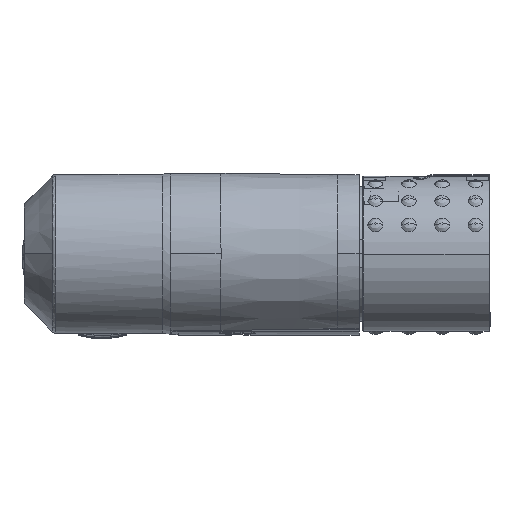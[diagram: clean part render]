
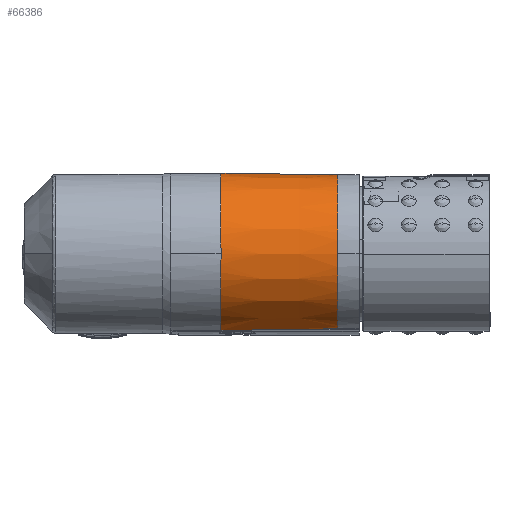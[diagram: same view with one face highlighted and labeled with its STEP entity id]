
A CAD part, top view. The second image highlights one B-rep face of the part: STEP entity #66386.
In plain terms, the highlighted conical face has half-angle 0.728 degrees and reference radius 10.66 mm.
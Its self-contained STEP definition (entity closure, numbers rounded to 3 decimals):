
#410 = CARTESIAN_POINT ( 'NONE',  ( 76.895, 4.527, 3.325 ) ) ;
#2387 = CARTESIAN_POINT ( 'NONE',  ( 76.895, -5.601, 10.66 ) ) ;
#3211 = VERTEX_POINT ( 'NONE', #36006 ) ;
#3272 = CARTESIAN_POINT ( 'NONE',  ( 70.732, -15.813, 3.322 ) ) ;
#3479 = CONICAL_SURFACE ( 'NONE', #55115, 10.66, 0.013 ) ;
#4653 = CARTESIAN_POINT ( 'NONE',  ( 76.895, 5.059, 0. ) ) ;
#5100 = EDGE_CURVE ( 'NONE', #68333, #75532, #85526, .T. ) ;
#5261 = CARTESIAN_POINT ( 'NONE',  ( 61.165, -3.316, 10.678 ) ) ;
#5509 = CARTESIAN_POINT ( 'NONE',  ( 61.165, -10.058, 9.969 ) ) ;
#7515 = EDGE_CURVE ( 'NONE', #42926, #3211, #79820, .T. ) ;
#8401 = CARTESIAN_POINT ( 'NONE',  ( 76.895, -0.251, 9.287 ) ) ;
#8846 = CARTESIAN_POINT ( 'NONE',  ( 76.895, -4.488, 10.66 ) ) ;
#9758 = CARTESIAN_POINT ( 'NONE',  ( 76.895, 2.352, 7.185 ) ) ;
#9793 = CARTESIAN_POINT ( 'NONE',  ( 70.732, -15.813, 3.322 ) ) ;
#9908 = VERTEX_POINT ( 'NONE', #9793 ) ;
#10267 = EDGE_CURVE ( 'NONE', #9908, #26901, #76460, .T. ) ;
#10924 = CARTESIAN_POINT ( 'NONE',  ( 74.841, -15.757, 3.325 ) ) ;
#11029 = CARTESIAN_POINT ( 'NONE',  ( 76.895, -9.947, 9.797 ) ) ;
#13061 = EDGE_CURVE ( 'NONE', #75532, #65360, #27592, .T. ) ;
#13097 = CARTESIAN_POINT ( 'NONE',  ( 61.165, -0.115, 9.441 ) ) ;
#13682 = CARTESIAN_POINT ( 'NONE',  ( 61.165, 5.259, 1.116 ) ) ;
#15316 = CARTESIAN_POINT ( 'NONE',  ( 76.895, 4.527, 3.325 ) ) ;
#15748 = CARTESIAN_POINT ( 'NONE',  ( 63.977, -15.905, 3.315 ) ) ;
#15751 = DIRECTION ( 'NONE',  ( -1., 0.013, 0. ) ) ;
#15991 = ORIENTED_EDGE ( 'NONE', *, *, #46995, .F. ) ;
#16851 = ORIENTED_EDGE ( 'NONE', *, *, #10267, .T. ) ;
#17145 = CARTESIAN_POINT ( 'NONE',  ( 76.895, -3.374, 10.484 ) ) ;
#17784 = ORIENTED_EDGE ( 'NONE', *, *, #13061, .T. ) ;
#19129 = CARTESIAN_POINT ( 'NONE',  ( 61.165, -1.144, 9.969 ) ) ;
#19819 = CARTESIAN_POINT ( 'NONE',  ( 61.165, -11.088, 9.441 ) ) ;
#20041 = B_SPLINE_CURVE_WITH_KNOTS ( 'NONE', 3,
 ( #83952, #76537, #54288, #48277, #82612, #13097, #19129, #5261, #69582, #62622 ),
 .UNSPECIFIED., .F., .F.,
 ( 4, 2, 2, 2, 4 ),
 ( 0.549, 0.599, 0.65, 0.7, 0.75 ),
 .UNSPECIFIED. ) ;
#20967 = CARTESIAN_POINT ( 'NONE',  ( 61.165, 4.747, 3.295 ) ) ;
#21507 = CARTESIAN_POINT ( 'NONE',  ( 76.895, -5.601, 10.66 ) ) ;
#24477 = B_SPLINE_CURVE_WITH_KNOTS ( 'NONE', 3,
 ( #53579, #66595, #67058, #11029, #32804, #39292, #74024, #87495, #46693, #74929 ),
 .UNSPECIFIED., .F., .F.,
 ( 4, 2, 2, 2, 4 ),
 ( 0., 0.25, 0.5, 0.75, 1. ),
 .UNSPECIFIED. ) ;
#26664 = EDGE_CURVE ( 'NONE', #41715, #36985, #55111, .T. ) ;
#26901 = VERTEX_POINT ( 'NONE', #56093 ) ;
#27257 = CARTESIAN_POINT ( 'NONE',  ( 61.165, -15.603, 4.384 ) ) ;
#27592 = B_SPLINE_CURVE_WITH_KNOTS ( 'NONE', 3,
 ( #75025, #53226, #88475, #81542, #57999, #4653 ),
 .UNSPECIFIED., .F., .F.,
 ( 4, 2, 4 ),
 ( 0.95, 0.975, 1. ),
 .UNSPECIFIED. ) ;
#31218 = ORIENTED_EDGE ( 'NONE', *, *, #82058, .T. ) ;
#31799 = CARTESIAN_POINT ( 'NONE',  ( 76.895, -15.729, 3.325 ) ) ;
#32711 = CARTESIAN_POINT ( 'NONE',  ( 70.732, -15.813, 3.322 ) ) ;
#32804 = CARTESIAN_POINT ( 'NONE',  ( 76.895, -10.952, 9.287 ) ) ;
#33025 = ORIENTED_EDGE ( 'NONE', *, *, #58676, .T. ) ;
#33132 = CARTESIAN_POINT ( 'NONE',  ( 76.895, 5.059, 0. ) ) ;
#36006 = CARTESIAN_POINT ( 'NONE',  ( 61.165, 5.259, 0. ) ) ;
#36628 = CARTESIAN_POINT ( 'NONE',  ( 76.895, 3.665, 5.386 ) ) ;
#36985 = VERTEX_POINT ( 'NONE', #86697 ) ;
#39292 = CARTESIAN_POINT ( 'NONE',  ( 76.895, -12.756, 7.98 ) ) ;
#40226 = CARTESIAN_POINT ( 'NONE',  ( 61.165, -7.886, 10.678 ) ) ;
#41715 = VERTEX_POINT ( 'NONE', #72022 ) ;
#42926 = VERTEX_POINT ( 'NONE', #20967 ) ;
#45314 = B_SPLINE_CURVE_WITH_KNOTS ( 'NONE', 3,
 ( #79213, #15748, #72268, #3272 ),
 .UNSPECIFIED., .F., .F.,
 ( 4, 4 ),
 ( 0., 1. ),
 .UNSPECIFIED. ) ;
#45545 = ORIENTED_EDGE ( 'NONE', *, *, #5100, .T. ) ;
#45906 = ORIENTED_EDGE ( 'NONE', *, *, #26664, .F. ) ;
#46693 = CARTESIAN_POINT ( 'NONE',  ( 76.895, -15.382, 4.383 ) ) ;
#46995 = EDGE_CURVE ( 'NONE', #68333, #26901, #24477, .T. ) ;
#47158 = CARTESIAN_POINT ( 'NONE',  ( 61.165, -15.083, 5.417 ) ) ;
#48277 = CARTESIAN_POINT ( 'NONE',  ( 61.165, 2.545, 7.272 ) ) ;
#48865 = CARTESIAN_POINT ( 'NONE',  ( 61.165, 4.747, 3.295 ) ) ;
#53226 = CARTESIAN_POINT ( 'NONE',  ( 76.895, 4.703, 2.79 ) ) ;
#53579 = CARTESIAN_POINT ( 'NONE',  ( 76.895, -5.601, 10.66 ) ) ;
#53940 = CARTESIAN_POINT ( 'NONE',  ( 72.786, -15.784, 3.325 ) ) ;
#54288 = CARTESIAN_POINT ( 'NONE',  ( 61.165, 3.88, 5.417 ) ) ;
#55111 = B_SPLINE_CURVE_WITH_KNOTS ( 'NONE', 3,
 ( #82407, #27257, #47158, #90250, #55459, #19819, #5509, #40226, #76775, #61959 ),
 .UNSPECIFIED., .F., .F.,
 ( 4, 2, 2, 2, 4 ),
 ( 0., 0.056, 0.111, 0.167, 0.223 ),
 .UNSPECIFIED. ) ;
#55115 = AXIS2_PLACEMENT_3D ( 'NONE', #71810, #78768, #57413 ) ;
#55459 = CARTESIAN_POINT ( 'NONE',  ( 61.165, -12.933, 8.093 ) ) ;
#56093 = CARTESIAN_POINT ( 'NONE',  ( 76.895, -15.729, 3.325 ) ) ;
#57182 = CARTESIAN_POINT ( 'NONE',  ( 61.165, 5.259, 0. ) ) ;
#57413 = DIRECTION ( 'NONE',  ( 0., 1., 0. ) ) ;
#57889 = EDGE_CURVE ( 'NONE', #42926, #36985, #20041, .T. ) ;
#57999 = CARTESIAN_POINT ( 'NONE',  ( 76.895, 5.059, 0.564 ) ) ;
#58676 = EDGE_CURVE ( 'NONE', #41715, #9908, #45314, .T. ) ;
#61959 = CARTESIAN_POINT ( 'NONE',  ( 61.173, -5.601, 10.86 ) ) ;
#62622 = CARTESIAN_POINT ( 'NONE',  ( 61.173, -5.601, 10.86 ) ) ;
#65360 = VERTEX_POINT ( 'NONE', #33132 ) ;
#66386 = ADVANCED_FACE ( 'NONE', ( #76079 ), #3479, .T. ) ;
#66595 = CARTESIAN_POINT ( 'NONE',  ( 76.895, -6.715, 10.66 ) ) ;
#67058 = CARTESIAN_POINT ( 'NONE',  ( 76.895, -7.828, 10.484 ) ) ;
#67751 = ORIENTED_EDGE ( 'NONE', *, *, #7515, .F. ) ;
#68333 = VERTEX_POINT ( 'NONE', #21507 ) ;
#69582 = CARTESIAN_POINT ( 'NONE',  ( 61.165, -4.459, 10.86 ) ) ;
#71810 = CARTESIAN_POINT ( 'NONE',  ( 76.895, -5.601, 0. ) ) ;
#72022 = CARTESIAN_POINT ( 'NONE',  ( 61.165, -15.949, 3.295 ) ) ;
#72268 = CARTESIAN_POINT ( 'NONE',  ( 67.168, -15.86, 3.325 ) ) ;
#73038 = ORIENTED_EDGE ( 'NONE', *, *, #57889, .T. ) ;
#73647 = CARTESIAN_POINT ( 'NONE',  ( 76.895, 4.18, 4.383 ) ) ;
#74024 = CARTESIAN_POINT ( 'NONE',  ( 76.895, -13.554, 7.185 ) ) ;
#74929 = CARTESIAN_POINT ( 'NONE',  ( 76.895, -15.729, 3.325 ) ) ;
#75025 = CARTESIAN_POINT ( 'NONE',  ( 76.895, 4.527, 3.325 ) ) ;
#75532 = VERTEX_POINT ( 'NONE', #410 ) ;
#76079 = FACE_OUTER_BOUND ( 'NONE', #77168, .T. ) ;
#76460 = B_SPLINE_CURVE_WITH_KNOTS ( 'NONE', 3,
 ( #32711, #53940, #10924, #31799 ),
 .UNSPECIFIED., .F., .F.,
 ( 4, 4 ),
 ( 0., 1. ),
 .UNSPECIFIED. ) ;
#76537 = CARTESIAN_POINT ( 'NONE',  ( 61.165, 4.4, 4.384 ) ) ;
#76775 = CARTESIAN_POINT ( 'NONE',  ( 61.165, -6.744, 10.86 ) ) ;
#77168 = EDGE_LOOP ( 'NONE', ( #17784, #31218, #67751, #73038, #45906, #33025, #16851, #15991, #45545 ) ) ;
#78065 = CARTESIAN_POINT ( 'NONE',  ( 61.165, 5.085, 2.232 ) ) ;
#78768 = DIRECTION ( 'NONE',  ( -1., 0., 0. ) ) ;
#78783 = CARTESIAN_POINT ( 'NONE',  ( 76.895, -1.255, 9.797 ) ) ;
#79213 = CARTESIAN_POINT ( 'NONE',  ( 61.165, -15.949, 3.295 ) ) ;
#79215 = CARTESIAN_POINT ( 'NONE',  ( 76.895, 5.059, 0. ) ) ;
#79227 = CARTESIAN_POINT ( 'NONE',  ( 76.895, 1.553, 7.98 ) ) ;
#79820 = B_SPLINE_CURVE_WITH_KNOTS ( 'NONE', 3,
 ( #48865, #78065, #13682, #57182 ),
 .UNSPECIFIED., .F., .F.,
 ( 4, 4 ),
 ( 0., 0.5 ),
 .UNSPECIFIED. ) ;
#81542 = CARTESIAN_POINT ( 'NONE',  ( 76.895, 5.014, 1.127 ) ) ;
#82058 = EDGE_CURVE ( 'NONE', #65360, #3211, #86197, .T. ) ;
#82407 = CARTESIAN_POINT ( 'NONE',  ( 61.165, -15.949, 3.295 ) ) ;
#82612 = CARTESIAN_POINT ( 'NONE',  ( 61.165, 1.73, 8.093 ) ) ;
#83952 = CARTESIAN_POINT ( 'NONE',  ( 61.165, 4.747, 3.295 ) ) ;
#85526 = B_SPLINE_CURVE_WITH_KNOTS ( 'NONE', 3,
 ( #2387, #8846, #17145, #78783, #8401, #79227, #9758, #36628, #73647, #15316 ),
 .UNSPECIFIED., .F., .F.,
 ( 4, 2, 2, 2, 4 ),
 ( 0.75, 0.8, 0.85, 0.9, 0.95 ),
 .UNSPECIFIED. ) ;
#86197 = LINE ( 'NONE', #79215, #89228 ) ;
#86697 = CARTESIAN_POINT ( 'NONE',  ( 61.173, -5.601, 10.86 ) ) ;
#87495 = CARTESIAN_POINT ( 'NONE',  ( 76.895, -14.868, 5.386 ) ) ;
#88475 = CARTESIAN_POINT ( 'NONE',  ( 76.895, 4.836, 2.24 ) ) ;
#89228 = VECTOR ( 'NONE', #15751, 1000. ) ;
#90250 = CARTESIAN_POINT ( 'NONE',  ( 61.165, -13.748, 7.272 ) ) ;
